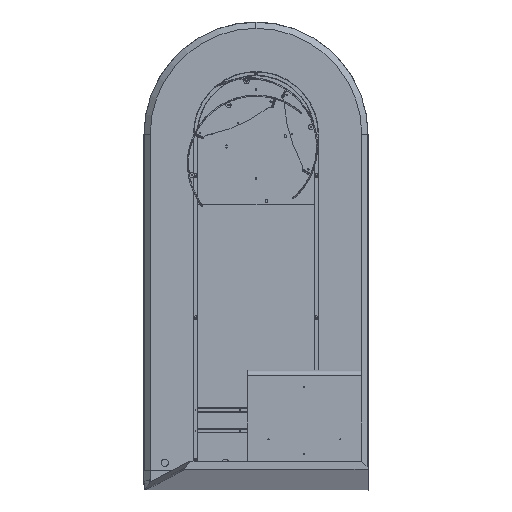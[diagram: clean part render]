
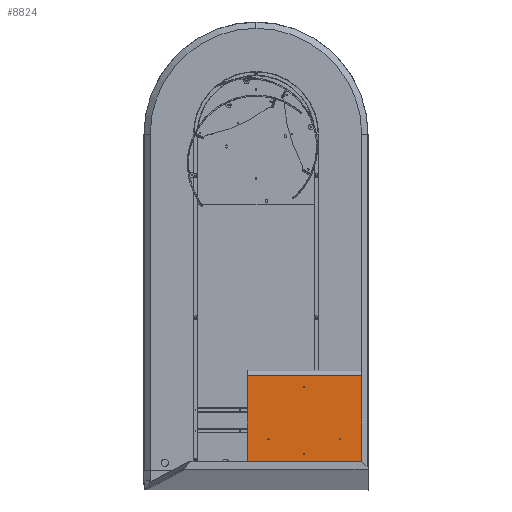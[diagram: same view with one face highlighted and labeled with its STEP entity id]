
A CAD part, front view. The second image highlights one B-rep face of the part: STEP entity #8824.
In plain terms, the highlighted planar face has unit normal (0, -1, 0).
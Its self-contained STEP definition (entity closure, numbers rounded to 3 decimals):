
#91 = CARTESIAN_POINT ( 'NONE',  ( 240.5, -86., -275. ) ) ;
#228 = FACE_OUTER_BOUND ( 'NONE', #19989, .T. ) ;
#390 = EDGE_LOOP ( 'NONE', ( #11141, #15642 ) ) ;
#406 = EDGE_CURVE ( 'NONE', #18675, #22343, #6181, .T. ) ;
#608 = VECTOR ( 'NONE', #24531, 1000. ) ;
#631 = VECTOR ( 'NONE', #11373, 1000. ) ;
#876 = CARTESIAN_POINT ( 'NONE',  ( -160., -86., 0. ) ) ;
#1082 = CARTESIAN_POINT ( 'NONE',  ( -215.5, -86., 275. ) ) ;
#1280 = DIRECTION ( 'NONE',  ( 0., -1., 0. ) ) ;
#1533 = ORIENTED_EDGE ( 'NONE', *, *, #15211, .F. ) ;
#1973 = CARTESIAN_POINT ( 'NONE',  ( 90., -86., -170. ) ) ;
#2314 = CARTESIAN_POINT ( 'NONE',  ( 90., -86., 172.5 ) ) ;
#2633 = CARTESIAN_POINT ( 'NONE',  ( -160., -86., 0. ) ) ;
#3019 = AXIS2_PLACEMENT_3D ( 'NONE', #16328, #20453, #23943 ) ;
#3210 = DIRECTION ( 'NONE',  ( 0., -1., 0. ) ) ;
#3511 = EDGE_CURVE ( 'NONE', #8363, #4421, #21826, .T. ) ;
#3701 = EDGE_LOOP ( 'NONE', ( #4802, #10484 ) ) ;
#3963 = EDGE_CURVE ( 'NONE', #22343, #18675, #12439, .T. ) ;
#4224 = FACE_BOUND ( 'NONE', #9803, .T. ) ;
#4421 = VERTEX_POINT ( 'NONE', #10965 ) ;
#4506 = DIRECTION ( 'NONE',  ( 0., 0., -1. ) ) ;
#4802 = ORIENTED_EDGE ( 'NONE', *, *, #3963, .F. ) ;
#5528 = DIRECTION ( 'NONE',  ( 0., 0., -1. ) ) ;
#5610 = PLANE ( 'NONE',  #11706 ) ;
#6048 = CARTESIAN_POINT ( 'NONE',  ( 215.5, -86., 275. ) ) ;
#6136 = EDGE_CURVE ( 'NONE', #7983, #18757, #18079, .T. ) ;
#6181 = CIRCLE ( 'NONE', #16184, 2.5 ) ;
#6562 = CIRCLE ( 'NONE', #20577, 2.5 ) ;
#6830 = AXIS2_PLACEMENT_3D ( 'NONE', #10993, #3210, #24501 ) ;
#7175 = CARTESIAN_POINT ( 'NONE',  ( 90., -86., -172.5 ) ) ;
#7478 = VERTEX_POINT ( 'NONE', #16372 ) ;
#7537 = CARTESIAN_POINT ( 'NONE',  ( -160., -86., -2.5 ) ) ;
#7581 = DIRECTION ( 'NONE',  ( 0., 0., -1. ) ) ;
#7600 = LINE ( 'NONE', #91, #631 ) ;
#7732 = DIRECTION ( 'NONE',  ( 0., -1., 0. ) ) ;
#7861 = FACE_BOUND ( 'NONE', #390, .T. ) ;
#7983 = VERTEX_POINT ( 'NONE', #1973 ) ;
#8257 = CARTESIAN_POINT ( 'NONE',  ( 240.5, -86., 275. ) ) ;
#8363 = VERTEX_POINT ( 'NONE', #23196 ) ;
#8389 = AXIS2_PLACEMENT_3D ( 'NONE', #876, #12529, #4506 ) ;
#8391 = DIRECTION ( 'NONE',  ( 0., -1., 0. ) ) ;
#8824 = ADVANCED_FACE ( 'NONE', ( #19387, #4224, #23139, #7861, #228 ), #5610, .T. ) ;
#9532 = ORIENTED_EDGE ( 'NONE', *, *, #23868, .F. ) ;
#9554 = CIRCLE ( 'NONE', #19952, 2.5 ) ;
#9803 = EDGE_LOOP ( 'NONE', ( #22128, #1533 ) ) ;
#9979 = CARTESIAN_POINT ( 'NONE',  ( -160., -86., 2.5 ) ) ;
#10383 = LINE ( 'NONE', #8257, #21014 ) ;
#10460 = VECTOR ( 'NONE', #17976, 1000. ) ;
#10484 = ORIENTED_EDGE ( 'NONE', *, *, #406, .F. ) ;
#10800 = EDGE_CURVE ( 'NONE', #4421, #8363, #6562, .T. ) ;
#10965 = CARTESIAN_POINT ( 'NONE',  ( 90., -86., 170. ) ) ;
#10993 = CARTESIAN_POINT ( 'NONE',  ( 160., -86., 0. ) ) ;
#11141 = ORIENTED_EDGE ( 'NONE', *, *, #10800, .F. ) ;
#11373 = DIRECTION ( 'NONE',  ( -1., 0., 0. ) ) ;
#11486 = DIRECTION ( 'NONE',  ( 0., -1., 0. ) ) ;
#11701 = EDGE_CURVE ( 'NONE', #7478, #22236, #17417, .T. ) ;
#11706 = AXIS2_PLACEMENT_3D ( 'NONE', #17520, #7732, #15260 ) ;
#11789 = EDGE_CURVE ( 'NONE', #13665, #22236, #10383, .T. ) ;
#12087 = EDGE_CURVE ( 'NONE', #7478, #21453, #7600, .T. ) ;
#12439 = CIRCLE ( 'NONE', #6830, 2.5 ) ;
#12529 = DIRECTION ( 'NONE',  ( 0., -1., 0. ) ) ;
#12922 = CARTESIAN_POINT ( 'NONE',  ( 160., -86., 0. ) ) ;
#13188 = ORIENTED_EDGE ( 'NONE', *, *, #6136, .F. ) ;
#13665 = VERTEX_POINT ( 'NONE', #1082 ) ;
#13947 = CARTESIAN_POINT ( 'NONE',  ( -215.5, -86., -275. ) ) ;
#13973 = LINE ( 'NONE', #22089, #10460 ) ;
#14169 = CIRCLE ( 'NONE', #18177, 2.5 ) ;
#14708 = DIRECTION ( 'NONE',  ( 0., 0., -1. ) ) ;
#14879 = CARTESIAN_POINT ( 'NONE',  ( 160., -86., 2.5 ) ) ;
#15137 = CARTESIAN_POINT ( 'NONE',  ( 90., -86., -175. ) ) ;
#15211 = EDGE_CURVE ( 'NONE', #23444, #16227, #9554, .T. ) ;
#15260 = DIRECTION ( 'NONE',  ( 0., 0., -1. ) ) ;
#15642 = ORIENTED_EDGE ( 'NONE', *, *, #3511, .F. ) ;
#15911 = DIRECTION ( 'NONE',  ( 1., 0., 0. ) ) ;
#16184 = AXIS2_PLACEMENT_3D ( 'NONE', #12922, #22316, #5528 ) ;
#16227 = VERTEX_POINT ( 'NONE', #7537 ) ;
#16328 = CARTESIAN_POINT ( 'NONE',  ( 90., -86., 172.5 ) ) ;
#16372 = CARTESIAN_POINT ( 'NONE',  ( 215.5, -86., -275. ) ) ;
#16389 = EDGE_CURVE ( 'NONE', #16227, #23444, #20398, .T. ) ;
#16490 = AXIS2_PLACEMENT_3D ( 'NONE', #7175, #1280, #14708 ) ;
#17417 = LINE ( 'NONE', #22532, #608 ) ;
#17520 = CARTESIAN_POINT ( 'NONE',  ( 0., -86., 0. ) ) ;
#17563 = CARTESIAN_POINT ( 'NONE',  ( 90., -86., -172.5 ) ) ;
#17663 = ORIENTED_EDGE ( 'NONE', *, *, #11789, .F. ) ;
#17976 = DIRECTION ( 'NONE',  ( 0., 0., -1. ) ) ;
#18079 = CIRCLE ( 'NONE', #16490, 2.5 ) ;
#18177 = AXIS2_PLACEMENT_3D ( 'NONE', #17563, #23303, #21448 ) ;
#18675 = VERTEX_POINT ( 'NONE', #14879 ) ;
#18757 = VERTEX_POINT ( 'NONE', #15137 ) ;
#19298 = ORIENTED_EDGE ( 'NONE', *, *, #19773, .T. ) ;
#19387 = FACE_BOUND ( 'NONE', #3701, .T. ) ;
#19773 = EDGE_CURVE ( 'NONE', #13665, #21453, #13973, .T. ) ;
#19952 = AXIS2_PLACEMENT_3D ( 'NONE', #2633, #8391, #20169 ) ;
#19989 = EDGE_LOOP ( 'NONE', ( #17663, #19298, #20757, #21646 ) ) ;
#20169 = DIRECTION ( 'NONE',  ( 0., 0., -1. ) ) ;
#20398 = CIRCLE ( 'NONE', #8389, 2.5 ) ;
#20453 = DIRECTION ( 'NONE',  ( 0., -1., 0. ) ) ;
#20577 = AXIS2_PLACEMENT_3D ( 'NONE', #2314, #11486, #7581 ) ;
#20757 = ORIENTED_EDGE ( 'NONE', *, *, #12087, .F. ) ;
#21014 = VECTOR ( 'NONE', #15911, 1000. ) ;
#21448 = DIRECTION ( 'NONE',  ( 0., 0., -1. ) ) ;
#21453 = VERTEX_POINT ( 'NONE', #13947 ) ;
#21588 = CARTESIAN_POINT ( 'NONE',  ( 160., -86., -2.5 ) ) ;
#21646 = ORIENTED_EDGE ( 'NONE', *, *, #11701, .T. ) ;
#21826 = CIRCLE ( 'NONE', #3019, 2.5 ) ;
#22089 = CARTESIAN_POINT ( 'NONE',  ( -215.5, -86., -275. ) ) ;
#22128 = ORIENTED_EDGE ( 'NONE', *, *, #16389, .F. ) ;
#22236 = VERTEX_POINT ( 'NONE', #6048 ) ;
#22316 = DIRECTION ( 'NONE',  ( 0., -1., 0. ) ) ;
#22343 = VERTEX_POINT ( 'NONE', #21588 ) ;
#22532 = CARTESIAN_POINT ( 'NONE',  ( 215.5, -86., 275. ) ) ;
#23139 = FACE_BOUND ( 'NONE', #23938, .T. ) ;
#23196 = CARTESIAN_POINT ( 'NONE',  ( 90., -86., 175. ) ) ;
#23303 = DIRECTION ( 'NONE',  ( 0., -1., 0. ) ) ;
#23444 = VERTEX_POINT ( 'NONE', #9979 ) ;
#23868 = EDGE_CURVE ( 'NONE', #18757, #7983, #14169, .T. ) ;
#23938 = EDGE_LOOP ( 'NONE', ( #9532, #13188 ) ) ;
#23943 = DIRECTION ( 'NONE',  ( 0., 0., -1. ) ) ;
#24501 = DIRECTION ( 'NONE',  ( 0., 0., -1. ) ) ;
#24531 = DIRECTION ( 'NONE',  ( 0., 0., 1. ) ) ;
